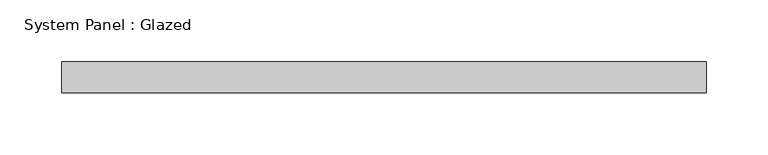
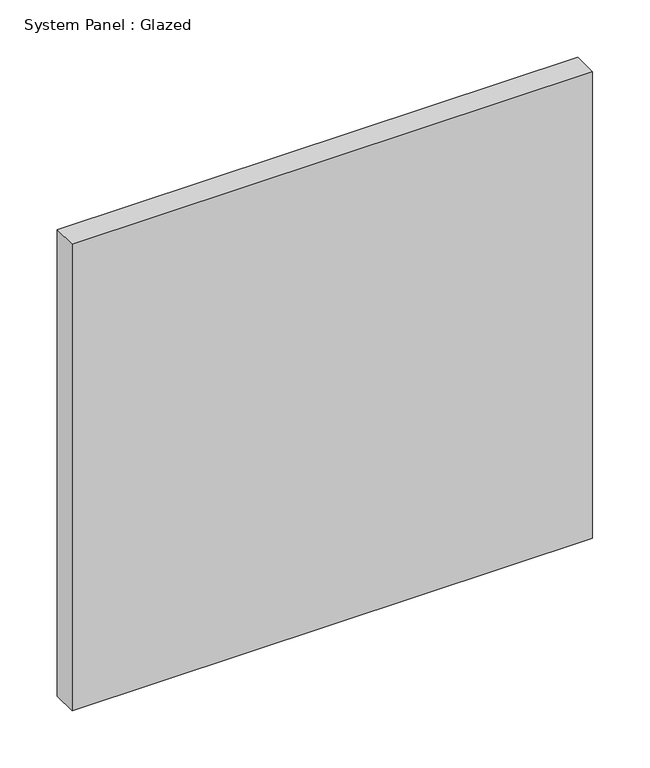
"""IFC4 building model written with IfcOpenShell, lengths in millimetres: plate geometry, System Panel : Glazed."""

from ifc_helpers import new_model, si_unit, origin, origin_with_axes, place, context, project, spatial, polyline, outline, extrude, source, transform, mapped, element, save


def system_panel_glazed_44697018(model_context):
    return source(origin(), model_context, "Body", "SweptSolid", [
        extrude(outline(polyline([(261.62, -12.7), (-261.62, -12.7), (-261.62, 12.7), (261.62, 12.7), (261.62, -12.7)])), origin_with_axes(), (0.0, 0.0, 1.0), 495.3),
    ])


if __name__ == "__main__":
    model = new_model("IFC4")
    model_context = context("Model", 3, world=origin())
    ifc_project = project(units=[si_unit("LENGTHUNIT", "METRE", prefix="MILLI")], contexts=[model_context])
    site = spatial("IfcSite", under=ifc_project)
    building = spatial("IfcBuilding", under=site)
    placement = place(None, origin())
    system_panel_glazed_shape = system_panel_glazed_44697018(model_context)
    element("IfcPlate", 1, ObjectType="System Panel : Glazed", at=placement, inside=building, context=model_context, shape_type="MappedRepresentation", body=[
        mapped(system_panel_glazed_shape, transform((0.0, 0.0, 0.0), x_axis=(1.0, 0.0, 0.0), y_axis=(0.0, 1.0, 0.0), z_axis=(0.0, 0.0, 1.0))),
    ])
    save(model, "model.ifc")
